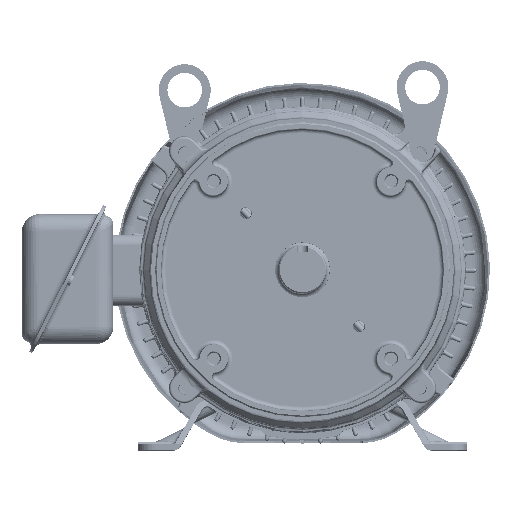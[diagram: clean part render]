
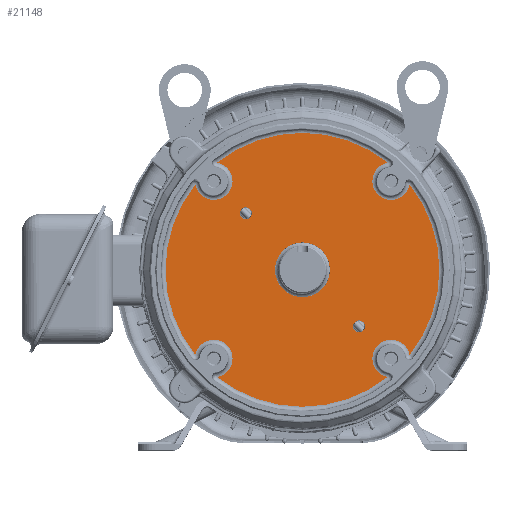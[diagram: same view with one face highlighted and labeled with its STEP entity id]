
A CAD part, top view. The second image highlights one B-rep face of the part: STEP entity #21148.
In plain terms, the highlighted planar face has unit normal (0, 0, 1) as drawn and (0, 0, -1) by its records, which use the part's own axes.
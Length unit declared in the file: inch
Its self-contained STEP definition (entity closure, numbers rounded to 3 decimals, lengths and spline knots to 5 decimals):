
#4299=CARTESIAN_POINT('',(-1.63518,-1.63518,-1.391));
#4300=DIRECTION('',(0.,0.,1.));
#4301=DIRECTION('',(-1.,0.,0.));
#4302=AXIS2_PLACEMENT_3D('',#4299,#4300,#4301);
#4304=CARTESIAN_POINT('',(-1.63518,-1.63518,-1.391));
#4305=DIRECTION('',(0.,0.,1.));
#4306=DIRECTION('',(1.,0.,0.));
#4307=AXIS2_PLACEMENT_3D('',#4304,#4305,#4306);
#4309=CARTESIAN_POINT('',(1.63518,1.63518,-1.391));
#4310=DIRECTION('',(0.,0.,1.));
#4311=DIRECTION('',(-1.,0.,0.));
#4312=AXIS2_PLACEMENT_3D('',#4309,#4310,#4311);
#4314=CARTESIAN_POINT('',(1.63518,1.63518,-1.391));
#4315=DIRECTION('',(0.,0.,1.));
#4316=DIRECTION('',(1.,0.,0.));
#4317=AXIS2_PLACEMENT_3D('',#4314,#4315,#4316);
#4319=CARTESIAN_POINT('',(0.,0.,-1.391));
#4320=DIRECTION('',(0.,0.,1.));
#4321=DIRECTION('',(-1.,0.,0.));
#4322=AXIS2_PLACEMENT_3D('',#4319,#4320,#4321);
#4324=CARTESIAN_POINT('',(0.,0.,-1.391));
#4325=DIRECTION('',(0.,0.,1.));
#4326=DIRECTION('',(1.,0.,0.));
#4327=AXIS2_PLACEMENT_3D('',#4324,#4325,#4326);
#4339=CARTESIAN_POINT('',(0.,0.,-1.391));
#4340=DIRECTION('',(0.,0.,-1.));
#4341=DIRECTION('',(-0.782,-0.623,0.));
#4342=AXIS2_PLACEMENT_3D('',#4339,#4340,#4341);
#9007=CARTESIAN_POINT('',(0.,0.,-1.391));
#9008=DIRECTION('',(0.,0.,-1.));
#9009=DIRECTION('',(-0.623,0.782,0.));
#9010=AXIS2_PLACEMENT_3D('',#9007,#9008,#9009);
#9087=CARTESIAN_POINT('',(-2.56326,2.56326,-1.391));
#9088=DIRECTION('',(0.,0.,1.));
#9089=DIRECTION('',(-0.983,-0.182,0.));
#9090=AXIS2_PLACEMENT_3D('',#9087,#9088,#9089);
#9107=CARTESIAN_POINT('',(2.56326,2.56326,-1.391));
#9108=DIRECTION('',(0.,0.,1.));
#9109=DIRECTION('',(-0.182,0.983,0.));
#9110=AXIS2_PLACEMENT_3D('',#9107,#9108,#9109);
#9157=CARTESIAN_POINT('',(0.,0.,-1.391));
#9158=DIRECTION('',(0.,0.,-1.));
#9159=DIRECTION('',(0.782,0.623,0.));
#9160=AXIS2_PLACEMENT_3D('',#9157,#9158,#9159);
#9207=CARTESIAN_POINT('',(2.56326,-2.56326,-1.391));
#9208=DIRECTION('',(0.,0.,1.));
#9209=DIRECTION('',(0.983,0.182,0.));
#9210=AXIS2_PLACEMENT_3D('',#9207,#9208,#9209);
#9257=CARTESIAN_POINT('',(0.,0.,-1.391));
#9258=DIRECTION('',(0.,0.,-1.));
#9259=DIRECTION('',(0.623,-0.782,0.));
#9260=AXIS2_PLACEMENT_3D('',#9257,#9258,#9259);
#9307=CARTESIAN_POINT('',(-2.56326,-2.56326,-1.391));
#9308=DIRECTION('',(0.,0.,1.));
#9309=DIRECTION('',(0.182,-0.983,0.));
#9310=AXIS2_PLACEMENT_3D('',#9307,#9308,#9309);
#14413=CARTESIAN_POINT('',(-3.09683,-2.46469,-1.391));
#14414=CARTESIAN_POINT('',(-3.09683,2.46469,-1.391));
#14415=VERTEX_POINT('',#14413);
#14416=VERTEX_POINT('',#14414);
#14421=CARTESIAN_POINT('',(-2.46469,-3.09683,-1.391));
#14422=VERTEX_POINT('',#14421);
#14427=CARTESIAN_POINT('',(2.46469,-3.09683,-1.391));
#14428=VERTEX_POINT('',#14427);
#14433=CARTESIAN_POINT('',(3.09683,-2.46469,-1.391));
#14434=VERTEX_POINT('',#14433);
#14439=CARTESIAN_POINT('',(3.09683,2.46469,-1.391));
#14440=VERTEX_POINT('',#14439);
#14445=CARTESIAN_POINT('',(2.46469,3.09683,-1.391));
#14446=VERTEX_POINT('',#14445);
#14451=CARTESIAN_POINT('',(-2.46469,3.09683,-1.391));
#14452=VERTEX_POINT('',#14451);
#14506=CARTESIAN_POINT('',(-1.80668,-1.63518,-1.391));
#14507=CARTESIAN_POINT('',(-1.46368,-1.63518,-1.391));
#14508=VERTEX_POINT('',#14506);
#14509=VERTEX_POINT('',#14507);
#14514=CARTESIAN_POINT('',(1.46368,1.63518,-1.391));
#14515=CARTESIAN_POINT('',(1.80668,1.63518,-1.391));
#14516=VERTEX_POINT('',#14514);
#14517=VERTEX_POINT('',#14515);
#14550=CARTESIAN_POINT('',(-0.7925,0.,-1.391));
#14551=CARTESIAN_POINT('',(0.7925,0.,-1.391));
#14552=VERTEX_POINT('',#14550);
#14553=VERTEX_POINT('',#14551);
#21108=CARTESIAN_POINT('',(0.,0.,-1.391));
#21109=DIRECTION('',(0.,0.,-1.));
#21110=DIRECTION('',(1.,0.,0.));
#21111=AXIS2_PLACEMENT_3D('',#21108,#21109,#21110);
#21112=PLANE('',#21111);
#21114=ORIENTED_EDGE('',*,*,#21113,.F.);
#21116=ORIENTED_EDGE('',*,*,#21115,.F.);
#21118=ORIENTED_EDGE('',*,*,#21117,.F.);
#21120=ORIENTED_EDGE('',*,*,#21119,.F.);
#21122=ORIENTED_EDGE('',*,*,#21121,.F.);
#21124=ORIENTED_EDGE('',*,*,#21123,.F.);
#21126=ORIENTED_EDGE('',*,*,#21125,.F.);
#21128=ORIENTED_EDGE('',*,*,#21127,.F.);
#21129=EDGE_LOOP('',(#21114,#21116,#21118,#21120,#21122,#21124,#21126,#21128));
#21130=FACE_OUTER_BOUND('',#21129,.F.);
#21132=ORIENTED_EDGE('',*,*,#21131,.F.);
#21134=ORIENTED_EDGE('',*,*,#21133,.F.);
#21135=EDGE_LOOP('',(#21132,#21134));
#21136=FACE_BOUND('',#21135,.F.);
#21137=ORIENTED_EDGE('',*,*,#21098,.F.);
#21139=ORIENTED_EDGE('',*,*,#21138,.F.);
#21140=EDGE_LOOP('',(#21137,#21139));
#21141=FACE_BOUND('',#21140,.F.);
#21143=ORIENTED_EDGE('',*,*,#21142,.F.);
#21145=ORIENTED_EDGE('',*,*,#21144,.F.);
#21146=EDGE_LOOP('',(#21143,#21145));
#21147=FACE_BOUND('',#21146,.F.);
#21148=ADVANCED_FACE('',(#21130,#21136,#21141,#21147),#21112,.T.);
#4303=CIRCLE('',#4302,0.1715);
#4308=CIRCLE('',#4307,0.1715);
#4313=CIRCLE('',#4312,0.1715);
#4318=CIRCLE('',#4317,0.1715);
#4323=CIRCLE('',#4322,0.7925);
#4328=CIRCLE('',#4327,0.7925);
#4343=CIRCLE('',#4342,3.95791);
#9011=CIRCLE('',#9010,3.95791);
#9091=CIRCLE('',#9090,0.54259);
#9111=CIRCLE('',#9110,0.54259);
#9161=CIRCLE('',#9160,3.95791);
#9211=CIRCLE('',#9210,0.54259);
#9261=CIRCLE('',#9260,3.95791);
#9311=CIRCLE('',#9310,0.54259);
#21098=EDGE_CURVE('',#14516,#14517,#4313,.T.);
#21113=EDGE_CURVE('',#14415,#14416,#4343,.T.);
#21115=EDGE_CURVE('',#14422,#14415,#9311,.T.);
#21117=EDGE_CURVE('',#14428,#14422,#9261,.T.);
#21119=EDGE_CURVE('',#14434,#14428,#9211,.T.);
#21121=EDGE_CURVE('',#14440,#14434,#9161,.T.);
#21123=EDGE_CURVE('',#14446,#14440,#9111,.T.);
#21125=EDGE_CURVE('',#14452,#14446,#9011,.T.);
#21127=EDGE_CURVE('',#14416,#14452,#9091,.T.);
#21131=EDGE_CURVE('',#14508,#14509,#4303,.T.);
#21133=EDGE_CURVE('',#14509,#14508,#4308,.T.);
#21138=EDGE_CURVE('',#14517,#14516,#4318,.T.);
#21142=EDGE_CURVE('',#14552,#14553,#4323,.T.);
#21144=EDGE_CURVE('',#14553,#14552,#4328,.T.);
